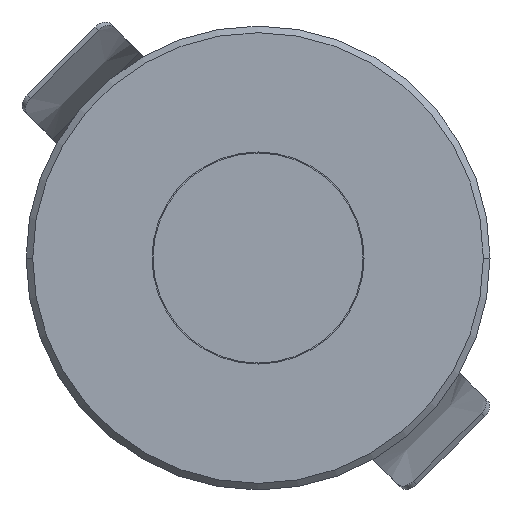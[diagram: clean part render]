
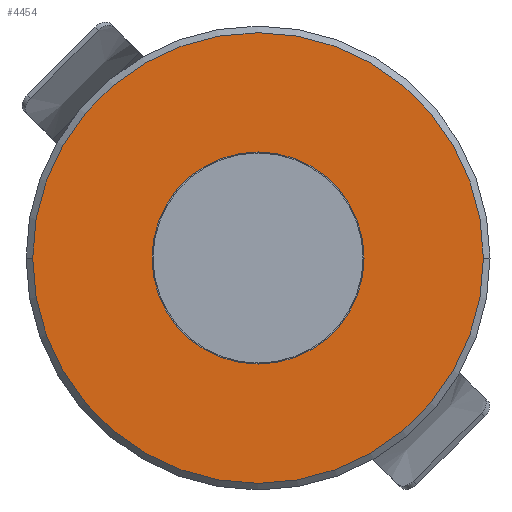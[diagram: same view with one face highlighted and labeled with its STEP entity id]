
A CAD part, front view. The second image highlights one B-rep face of the part: STEP entity #4454.
In plain terms, the highlighted planar face has unit normal (0, -1, 0) as drawn and (0, 0, 1) by its records, which use the part's own axes.
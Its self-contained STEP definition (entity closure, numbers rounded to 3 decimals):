
#4226=CARTESIAN_POINT('',(0.,0.,2.5));
#4227=DIRECTION('',(0.,0.,-1.));
#4228=DIRECTION('',(-1.,0.,0.));
#4229=AXIS2_PLACEMENT_3D('',#4226,#4227,#4228);
#4231=CARTESIAN_POINT('',(0.,0.,2.5));
#4232=DIRECTION('',(0.,0.,-1.));
#4233=DIRECTION('',(0.,1.,0.));
#4234=AXIS2_PLACEMENT_3D('',#4231,#4232,#4233);
#4236=CARTESIAN_POINT('',(0.,0.,2.5));
#4237=DIRECTION('',(0.,0.,-1.));
#4238=DIRECTION('',(1.,0.,0.));
#4239=AXIS2_PLACEMENT_3D('',#4236,#4237,#4238);
#4241=CARTESIAN_POINT('',(0.,0.,2.5));
#4242=DIRECTION('',(0.,0.,-1.));
#4243=DIRECTION('',(0.,-1.,0.));
#4244=AXIS2_PLACEMENT_3D('',#4241,#4242,#4243);
#4246=CARTESIAN_POINT('',(0.,0.,2.5));
#4247=DIRECTION('',(0.,0.,1.));
#4248=DIRECTION('',(0.,-1.,0.));
#4249=AXIS2_PLACEMENT_3D('',#4246,#4247,#4248);
#4251=CARTESIAN_POINT('',(0.,0.,2.5));
#4252=DIRECTION('',(0.,0.,1.));
#4253=DIRECTION('',(0.,1.,0.));
#4254=AXIS2_PLACEMENT_3D('',#4251,#4252,#4253);
#4360=CARTESIAN_POINT('',(0.,34.,2.5));
#4361=CARTESIAN_POINT('',(34.,0.,2.5));
#4362=VERTEX_POINT('',#4360);
#4363=VERTEX_POINT('',#4361);
#4364=CARTESIAN_POINT('',(-34.,0.,2.5));
#4365=VERTEX_POINT('',#4364);
#4366=CARTESIAN_POINT('',(0.,-34.,2.5));
#4367=VERTEX_POINT('',#4366);
#4368=CARTESIAN_POINT('',(0.,-16.,2.5));
#4369=CARTESIAN_POINT('',(0.,16.,2.5));
#4370=VERTEX_POINT('',#4368);
#4371=VERTEX_POINT('',#4369);
#4435=CARTESIAN_POINT('',(0.,0.,2.5));
#4436=DIRECTION('',(0.,0.,1.));
#4437=DIRECTION('',(1.,0.,0.));
#4438=AXIS2_PLACEMENT_3D('',#4435,#4436,#4437);
#4439=PLANE('',#4438);
#4440=ORIENTED_EDGE('',*,*,#4424,.T.);
#4441=ORIENTED_EDGE('',*,*,#4422,.T.);
#4443=ORIENTED_EDGE('',*,*,#4442,.T.);
#4445=ORIENTED_EDGE('',*,*,#4444,.T.);
#4446=EDGE_LOOP('',(#4440,#4441,#4443,#4445));
#4447=FACE_OUTER_BOUND('',#4446,.F.);
#4449=ORIENTED_EDGE('',*,*,#4448,.T.);
#4451=ORIENTED_EDGE('',*,*,#4450,.T.);
#4452=EDGE_LOOP('',(#4449,#4451));
#4453=FACE_BOUND('',#4452,.F.);
#4454=ADVANCED_FACE('',(#4447,#4453),#4439,.T.);
#4230=CIRCLE('',#4229,34.);
#4235=CIRCLE('',#4234,34.);
#4240=CIRCLE('',#4239,34.);
#4245=CIRCLE('',#4244,34.);
#4250=CIRCLE('',#4249,16.);
#4255=CIRCLE('',#4254,16.);
#4422=EDGE_CURVE('',#4362,#4363,#4235,.T.);
#4424=EDGE_CURVE('',#4365,#4362,#4230,.T.);
#4442=EDGE_CURVE('',#4363,#4367,#4240,.T.);
#4444=EDGE_CURVE('',#4367,#4365,#4245,.T.);
#4448=EDGE_CURVE('',#4370,#4371,#4250,.T.);
#4450=EDGE_CURVE('',#4371,#4370,#4255,.T.);
